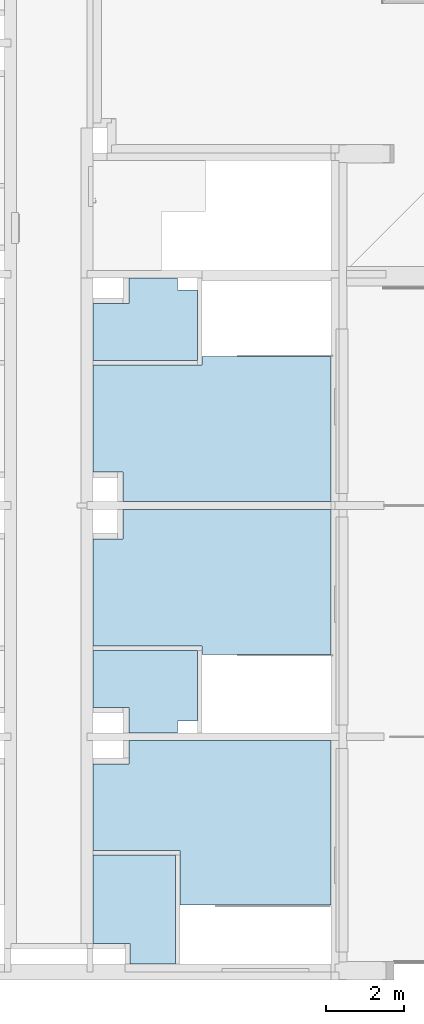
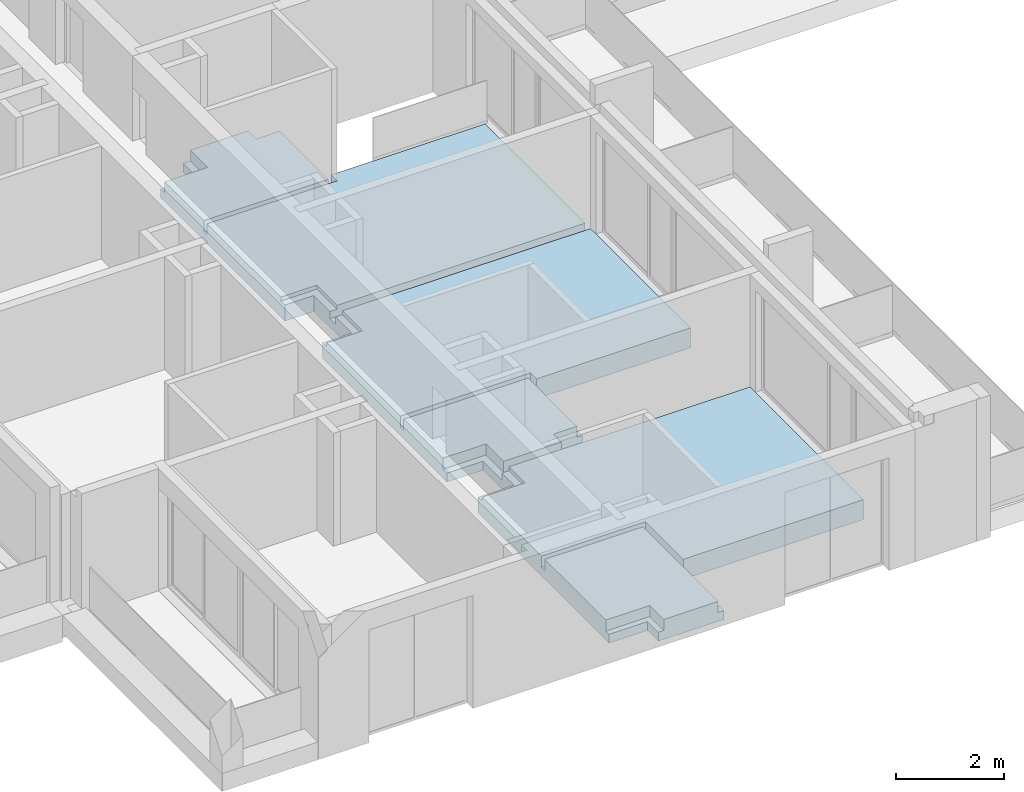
# One storey, part 2 of 30: 1 slab.
"""IFC2X3 building model written with IfcOpenShell, lengths in millimetres."""

from ifc_helpers import new_model, entity, si_unit, converted_unit, derived_unit, money_unit, direction, frame, origin_with_axes, place, context, subcontext, project, spatial, faceted_brep, material, material_list, type_object, element, save


model = new_model("IFC2X3")

# Units and contexts
model_context = context("Model", 3, precision=0.01, world=origin_with_axes(), true_north=direction((0.34421633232, 0.938890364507)))
body_context = subcontext(model_context, "Body", "Model", "MODEL_VIEW")
ifc_project = project(units=[si_unit("LENGTHUNIT", "METRE", prefix="MILLI"), si_unit("AREAUNIT", "SQUARE_METRE"), si_unit("VOLUMEUNIT", "CUBIC_METRE"), converted_unit("PLANEANGLEUNIT", "DEGREE", entity("IfcPlaneAngleMeasure", 0.0174532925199), si_unit("PLANEANGLEUNIT", "RADIAN"), dimensions=[0, 0, 0, 0, 0, 0, 0]), si_unit("SOLIDANGLEUNIT", "STERADIAN"), money_unit("USD"), converted_unit("TIMEUNIT", "Year", entity("IfcTimeMeasure", 31556926.0), si_unit("TIMEUNIT", "SECOND"), dimensions=[0, 0, 1, 0, 0, 0, 0]), si_unit("MASSUNIT", "GRAM", prefix="KILO"), si_unit("THERMODYNAMICTEMPERATUREUNIT", "DEGREE_CELSIUS"), si_unit("LUMINOUSINTENSITYUNIT", "LUMEN"), si_unit("ENERGYUNIT", "JOULE", prefix="MEGA"), derived_unit("THERMALCONDUCTANCEUNIT", [(si_unit("POWERUNIT", "WATT"), 1), (si_unit("LENGTHUNIT", "METRE"), -1), (si_unit("THERMODYNAMICTEMPERATUREUNIT", "KELVIN"), -1)]), derived_unit("SPECIFICHEATCAPACITYUNIT", [(si_unit("ENERGYUNIT", "JOULE"), 1), (si_unit("MASSUNIT", "GRAM", prefix="KILO"), -1), (si_unit("THERMODYNAMICTEMPERATUREUNIT", "KELVIN"), -1)]), derived_unit("MASSDENSITYUNIT", [(si_unit("MASSUNIT", "GRAM", prefix="KILO"), 1), (si_unit("VOLUMEUNIT", "CUBIC_METRE"), -1)])], contexts=[model_context])

# Site, building, storey
site_placement = place(None, origin_with_axes())
site = spatial("IfcSite", under=ifc_project, at=site_placement, Name="USTRONIE MORSKIE", CompositionType="ELEMENT")
building_placement = place(site_placement, origin_with_axes())
building = spatial("IfcBuilding", under=site, at=building_placement, Name="Budynek", CompositionType="ELEMENT")
storey_placement = place(building_placement, frame((0.0, 0.0, 16000.0), z_axis=(0.0, 0.0, 1.0), x_axis=(1.0, 0.0, 0.0)))
storey = spatial("IfcBuildingStorey", under=building, at=storey_placement, Name="ANTRESOLA - KOND. TECHNICZNA", CompositionType="ELEMENT", Elevation=16000.0)

# Slab
ifc_material_1 = material(Name="Płytki podłogowe")
ifc_material_2 = material(Name="Klej elastyczny")
ifc_material_3 = material(Name="Wylewka")
ifc_material_4 = material(Name="Płyty styropianowe EPS PODŁOGA")
ifc_material_5 = material(Name="STROP monolityczny")
ifc_material_list = material_list([ifc_material_1, ifc_material_2, ifc_material_3, ifc_material_4, ifc_material_5])
slab_type = type_object("IfcSlabType", Name="503-PS STROP ANTRESOLA 450", PredefinedType="FLOOR")
slab_placement = place(storey_placement, frame((359697.923683, 714551.204653, 90.0), z_axis=(0.0, 0.0, 1.0), x_axis=(1.0, 0.0, 0.0)))
element("IfcSlab", 1, at=slab_placement, inside=storey, type_object=slab_type, material=ifc_material_list, Name="P5", PredefinedType="FLOOR", context=body_context, shape_type="Brep", body=[
    faceted_brep([(2099.99723615, -2470.00561739, 0.0), (-0.00276384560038, -2470.00561739, 0.0), (-0.00276384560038, -4730.00561695, 0.0), (819.997236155, -4730.00561695, 0.0), (939.997236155, -4730.00561695, 0.0), (939.997236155, -5250.00561695, 0.0), (2099.99723615, -5250.00561695, 0.0), (2099.99723615, -2470.00561739, -10.0), (-0.00276384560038, -2470.00561739, -10.0), (-0.00276384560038, -4730.00561695, -10.0), (819.997236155, -4730.00561695, -10.0), (939.997236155, -4730.00561695, -10.0), (939.997236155, -5250.00561695, -10.0), (2099.99723615, -5250.00561695, -10.0)], [[[0, 1, 2, 3, 4, 5, 6]], [[0, 7, 8, 1]], [[1, 8, 9, 2]], [[10, 3, 2, 9]], [[3, 10, 11, 4]], [[5, 4, 11, 12]], [[13, 6, 5, 12]], [[7, 0, 6, 13]], [[7, 13, 12, 11, 10, 9, 8]]]),
    faceted_brep([(-0.00276384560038, 7300.00976396, 0.0), (619.997236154, 7300.00976396, 0.0), (769.997236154, 7300.00976396, 0.0), (769.997236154, 6550.01183892, 0.0), (6069.99723615, 6550.01672018, 0.0), (6069.99723615, 10250.0386966, 0.0), (2779.99723615, 10250.0386966, 0.0), (2779.99723615, 10029.9758893, 0.0), (2659.99723615, 10029.9758893, 0.0), (-0.00276384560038, 10029.9758893, 0.0), (619.997236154, 7300.00976396, -10.0), (-0.00276384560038, 7300.00976396, -10.0), (769.997236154, 7300.00976396, -10.0), (769.997236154, 6550.01183892, -10.0), (6069.99723615, 6550.01672018, -10.0), (6069.99723615, 10250.0386966, -10.0), (2779.99723615, 10250.0386966, -10.0), (2779.99723615, 10029.9758893, -10.0), (2659.99723615, 10029.9758893, -10.0), (-0.00276384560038, 10029.9758893, -10.0)], [[[0, 1, 2, 3, 4, 5, 6, 7, 8, 9]], [[10, 1, 0, 11]], [[1, 10, 12, 2]], [[3, 2, 12, 13]], [[3, 13, 14, 4]], [[4, 14, 15, 5]], [[16, 6, 5, 15]], [[7, 6, 16, 17]], [[18, 8, 7, 17]], [[9, 8, 18, 19]], [[11, 0, 9, 19]], [[10, 11, 19, 18, 17, 16, 15, 14, 13, 12]]]),
    faceted_brep([(2659.99723615, 2750.01504804, 0.0), (-0.00276384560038, 2750.01504804, 0.0), (-0.00276384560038, 1299.9887661, 0.0), (769.998137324, 1299.9887661, 0.0), (919.998137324, 1299.9887661, 0.0), (919.998137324, 649.994383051, 0.0), (2159.99723615, 649.994383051, 0.0), (2159.99723615, 949.994364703, 0.0), (2659.99723615, 949.994364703, 0.0), (2659.99723615, 2750.01504804, -10.0), (-0.00276384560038, 2750.01504804, -10.0), (-0.00276384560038, 1299.9887661, -10.0), (769.998137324, 1299.9887661, -10.0), (919.998137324, 1299.9887661, -10.0), (919.998137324, 649.994383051, -10.0), (2159.99723615, 649.994383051, -10.0), (2159.99723615, 949.994364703, -10.0), (2659.99723615, 949.994364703, -10.0)], [[[0, 1, 2, 3, 4, 5, 6, 7, 8]], [[0, 9, 10, 1]], [[1, 10, 11, 2]], [[12, 3, 2, 11]], [[3, 12, 13, 4]], [[5, 4, 13, 14]], [[5, 14, 15, 6]], [[6, 15, 16, 7]], [[17, 8, 7, 16]], [[9, 0, 8, 17]], [[9, 17, 16, 15, 14, 13, 12, 11, 10]]]),
    faceted_brep([(-0.00276384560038, 10149.9758893, 0.0), (2659.99723615, 10149.9758893, 0.0), (2659.99723615, 11949.9944279, 0.0), (2159.99723615, 11949.9944279, 0.0), (2159.99723615, 12249.9943831, 0.0), (919.998137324, 12249.9943831, 0.0), (919.998137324, 11599.9870085, 0.0), (769.998137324, 11599.9870085, 0.0), (-0.00276384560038, 11599.9870085, 0.0), (2659.99723615, 10149.9758893, -10.0), (-0.00276384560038, 10149.9758893, -10.0), (2659.99723615, 11949.9944279, -10.0), (2159.99723615, 11949.9944279, -10.0), (2159.99723615, 12249.9943831, -10.0), (919.998137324, 12249.9943831, -10.0), (919.998137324, 11599.9870085, -10.0), (769.998137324, 11599.9870085, -10.0), (-0.00276384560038, 11599.9870085, -10.0)], [[[0, 1, 2, 3, 4, 5, 6, 7, 8]], [[9, 1, 0, 10]], [[1, 9, 11, 2]], [[2, 11, 12, 3]], [[13, 4, 3, 12]], [[14, 5, 4, 13]], [[6, 5, 14, 15]], [[16, 7, 6, 15]], [[8, 7, 16, 17]], [[10, 0, 8, 17]], [[9, 10, 17, 16, 15, 14, 13, 12, 11]]]),
    faceted_brep([(619.997236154, 5600.00976396, -10.0), (619.997236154, 5600.00976396, 0.0), (769.997236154, 5600.00976396, 0.0), (769.997236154, 5600.00976396, -10.0), (-0.00276384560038, 5600.00976396, 0.0), (-0.00276384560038, 5600.00976396, -10.0), (-0.00276384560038, 2870.01504804, 0.0), (2779.99723615, 2870.01504804, 0.0), (2779.99723615, 2750.01504804, 0.0), (2779.99723615, 2649.99427753, 0.0), (6069.99723615, 2649.99427753, 0.0), (6069.99723615, 6350.01672018, 0.0), (769.997236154, 6350.01183892, 0.0), (769.997236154, 6350.01183892, -10.0), (6069.99723615, 6350.01672018, -10.0), (6069.99723615, 2649.99427753, -10.0), (2779.99723615, 2649.99427753, -10.0), (2779.99723615, 2750.01504804, -10.0), (2779.99723615, 2870.01504804, -10.0), (-0.00276384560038, 2870.01504804, -10.0)], [[[0, 1, 2, 3]], [[4, 1, 0, 5]], [[1, 4, 6, 7, 8, 9, 10, 11, 12, 2]], [[2, 12, 13, 3]], [[5, 0, 3, 13, 14, 15, 16, 17, 18, 19]], [[4, 5, 19, 6]], [[7, 6, 19, 18]], [[17, 8, 7, 18]], [[9, 8, 17, 16]], [[9, 16, 15, 10]], [[14, 11, 10, 15]], [[13, 12, 11, 14]]]),
    faceted_brep([(919.998137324, 449.994383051, -10.0), (919.998137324, 449.994383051, 0.0), (2159.99723615, 449.994383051, 0.0), (2159.99723615, 449.994383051, -10.0), (919.998137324, -0.00759474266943, 0.0), (919.998137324, -0.00759474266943, -10.0), (919.998137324, -150.007594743, 0.0), (-0.00276384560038, -150.007594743, 0.0), (-0.00276384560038, -2350.00561739, 0.0), (2219.99723615, -2350.00561739, 0.0), (2219.99723615, -2470.00561739, 0.0), (2219.99723615, -3750.00558845, 0.0), (6069.99720772, -3750.00558845, 0.0), (6069.99720772, 449.994569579, 0.0), (6069.99720772, 449.994569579, -10.0), (6069.99720772, -3750.00558845, -10.0), (2219.99723615, -3750.00558845, -10.0), (2219.99723615, -2470.00561739, -10.0), (2219.99723615, -2350.00561739, -10.0), (-0.00276384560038, -2350.00561739, -10.0), (-0.00276384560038, -150.007594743, -10.0), (919.998137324, -150.007594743, -10.0)], [[[0, 1, 2, 3]], [[4, 1, 0, 5]], [[1, 4, 6, 7, 8, 9, 10, 11, 12, 13, 2]], [[3, 2, 13, 14]], [[5, 0, 3, 14, 15, 16, 17, 18, 19, 20, 21]], [[4, 5, 21, 6]], [[7, 6, 21, 20]], [[7, 20, 19, 8]], [[9, 8, 19, 18]], [[17, 10, 9, 18]], [[11, 10, 17, 16]], [[11, 16, 15, 12]], [[15, 14, 13, 12]]]),
    faceted_brep([(2099.99723615, -2470.00561739, -10.0), (-0.00276384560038, -2470.00561739, -10.0), (-0.00276384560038, -4730.00561695, -10.0), (819.997236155, -4730.00561695, -10.0), (939.997236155, -4730.00561695, -10.0), (939.997236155, -5250.00561695, -10.0), (2099.99723615, -5250.00561695, -10.0), (2099.99723615, -2470.00561739, -15.0), (-0.00276384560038, -2470.00561739, -15.0), (-0.00276384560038, -4730.00561695, -15.0), (819.997236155, -4730.00561695, -15.0), (939.997236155, -4730.00561695, -15.0), (939.997236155, -5250.00561695, -15.0), (2099.99723615, -5250.00561695, -15.0)], [[[0, 1, 2, 3, 4, 5, 6]], [[0, 7, 8, 1]], [[1, 8, 9, 2]], [[10, 3, 2, 9]], [[3, 10, 11, 4]], [[5, 4, 11, 12]], [[13, 6, 5, 12]], [[7, 0, 6, 13]], [[7, 13, 12, 11, 10, 9, 8]]]),
    faceted_brep([(-0.00276384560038, 7300.00976396, -10.0), (619.997236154, 7300.00976396, -10.0), (769.997236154, 7300.00976396, -10.0), (769.997236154, 6550.01183892, -10.0), (6069.99723615, 6550.01672018, -10.0), (6069.99723615, 10250.0386966, -10.0), (2779.99723615, 10250.0386966, -10.0), (2779.99723615, 10029.9758893, -10.0), (2659.99723615, 10029.9758893, -10.0), (-0.00276384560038, 10029.9758893, -10.0), (619.997236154, 7300.00976396, -15.0), (-0.00276384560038, 7300.00976396, -15.0), (769.997236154, 7300.00976396, -15.0), (769.997236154, 6550.01183892, -15.0), (6069.99723615, 6550.01672018, -15.0), (6069.99723615, 10250.0386966, -15.0), (2779.99723615, 10250.0386966, -15.0), (2779.99723615, 10029.9758893, -15.0), (2659.99723615, 10029.9758893, -15.0), (-0.00276384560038, 10029.9758893, -15.0)], [[[0, 1, 2, 3, 4, 5, 6, 7, 8, 9]], [[10, 1, 0, 11]], [[1, 10, 12, 2]], [[3, 2, 12, 13]], [[3, 13, 14, 4]], [[4, 14, 15, 5]], [[16, 6, 5, 15]], [[7, 6, 16, 17]], [[18, 8, 7, 17]], [[9, 8, 18, 19]], [[11, 0, 9, 19]], [[10, 11, 19, 18, 17, 16, 15, 14, 13, 12]]]),
    faceted_brep([(2659.99723615, 2750.01504804, -10.0), (-0.00276384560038, 2750.01504804, -10.0), (-0.00276384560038, 1299.9887661, -10.0), (769.998137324, 1299.9887661, -10.0), (919.998137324, 1299.9887661, -10.0), (919.998137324, 649.994383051, -10.0), (2159.99723615, 649.994383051, -10.0), (2159.99723615, 949.994364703, -10.0), (2659.99723615, 949.994364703, -10.0), (2659.99723615, 2750.01504804, -15.0), (-0.00276384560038, 2750.01504804, -15.0), (-0.00276384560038, 1299.9887661, -15.0), (769.998137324, 1299.9887661, -15.0), (919.998137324, 1299.9887661, -15.0), (919.998137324, 649.994383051, -15.0), (2159.99723615, 649.994383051, -15.0), (2159.99723615, 949.994364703, -15.0), (2659.99723615, 949.994364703, -15.0)], [[[0, 1, 2, 3, 4, 5, 6, 7, 8]], [[0, 9, 10, 1]], [[1, 10, 11, 2]], [[12, 3, 2, 11]], [[3, 12, 13, 4]], [[5, 4, 13, 14]], [[5, 14, 15, 6]], [[6, 15, 16, 7]], [[17, 8, 7, 16]], [[9, 0, 8, 17]], [[9, 17, 16, 15, 14, 13, 12, 11, 10]]]),
    faceted_brep([(-0.00276384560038, 10149.9758893, -10.0), (2659.99723615, 10149.9758893, -10.0), (2659.99723615, 11949.9944279, -10.0), (2159.99723615, 11949.9944279, -10.0), (2159.99723615, 12249.9943831, -10.0), (919.998137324, 12249.9943831, -10.0), (919.998137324, 11599.9870085, -10.0), (769.998137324, 11599.9870085, -10.0), (-0.00276384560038, 11599.9870085, -10.0), (2659.99723615, 10149.9758893, -15.0), (-0.00276384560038, 10149.9758893, -15.0), (2659.99723615, 11949.9944279, -15.0), (2159.99723615, 11949.9944279, -15.0), (2159.99723615, 12249.9943831, -15.0), (919.998137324, 12249.9943831, -15.0), (919.998137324, 11599.9870085, -15.0), (769.998137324, 11599.9870085, -15.0), (-0.00276384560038, 11599.9870085, -15.0)], [[[0, 1, 2, 3, 4, 5, 6, 7, 8]], [[9, 1, 0, 10]], [[1, 9, 11, 2]], [[2, 11, 12, 3]], [[13, 4, 3, 12]], [[14, 5, 4, 13]], [[6, 5, 14, 15]], [[16, 7, 6, 15]], [[8, 7, 16, 17]], [[10, 0, 8, 17]], [[9, 10, 17, 16, 15, 14, 13, 12, 11]]]),
    faceted_brep([(619.997236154, 5600.00976396, -15.0), (619.997236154, 5600.00976396, -10.0), (769.997236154, 5600.00976396, -10.0), (769.997236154, 5600.00976396, -15.0), (-0.00276384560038, 5600.00976396, -10.0), (-0.00276384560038, 5600.00976396, -15.0), (-0.00276384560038, 2870.01504804, -10.0), (2779.99723615, 2870.01504804, -10.0), (2779.99723615, 2750.01504804, -10.0), (2779.99723615, 2649.99427753, -10.0), (6069.99723615, 2649.99427753, -10.0), (6069.99723615, 6350.01672018, -10.0), (769.997236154, 6350.01183892, -10.0), (769.997236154, 6350.01183892, -15.0), (6069.99723615, 6350.01672018, -15.0), (6069.99723615, 2649.99427753, -15.0), (2779.99723615, 2649.99427753, -15.0), (2779.99723615, 2750.01504804, -15.0), (2779.99723615, 2870.01504804, -15.0), (-0.00276384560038, 2870.01504804, -15.0)], [[[0, 1, 2, 3]], [[4, 1, 0, 5]], [[1, 4, 6, 7, 8, 9, 10, 11, 12, 2]], [[2, 12, 13, 3]], [[5, 0, 3, 13, 14, 15, 16, 17, 18, 19]], [[4, 5, 19, 6]], [[7, 6, 19, 18]], [[17, 8, 7, 18]], [[9, 8, 17, 16]], [[9, 16, 15, 10]], [[14, 11, 10, 15]], [[13, 12, 11, 14]]]),
    faceted_brep([(919.998137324, 449.994383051, -15.0), (919.998137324, 449.994383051, -10.0), (2159.99723615, 449.994383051, -10.0), (2159.99723615, 449.994383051, -15.0), (919.998137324, -0.00759474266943, -10.0), (919.998137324, -0.00759474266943, -15.0), (919.998137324, -150.007594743, -10.0), (-0.00276384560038, -150.007594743, -10.0), (-0.00276384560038, -2350.00561739, -10.0), (2219.99723615, -2350.00561739, -10.0), (2219.99723615, -2470.00561739, -10.0), (2219.99723615, -3750.00558845, -10.0), (6069.99720772, -3750.00558845, -10.0), (6069.99720772, 449.994569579, -10.0), (6069.99720772, 449.994569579, -15.0), (6069.99720772, -3750.00558845, -15.0), (2219.99723615, -3750.00558845, -15.0), (2219.99723615, -2470.00561739, -15.0), (2219.99723615, -2350.00561739, -15.0), (-0.00276384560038, -2350.00561739, -15.0), (-0.00276384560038, -150.007594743, -15.0), (919.998137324, -150.007594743, -15.0)], [[[0, 1, 2, 3]], [[4, 1, 0, 5]], [[1, 4, 6, 7, 8, 9, 10, 11, 12, 13, 2]], [[3, 2, 13, 14]], [[5, 0, 3, 14, 15, 16, 17, 18, 19, 20, 21]], [[4, 5, 21, 6]], [[7, 6, 21, 20]], [[7, 20, 19, 8]], [[9, 8, 19, 18]], [[17, 10, 9, 18]], [[11, 10, 17, 16]], [[11, 16, 15, 12]], [[15, 14, 13, 12]]]),
    faceted_brep([(2099.99723615, -2470.00561739, -15.0), (-0.00276384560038, -2470.00561739, -15.0), (-0.00276384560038, -4730.00561695, -15.0), (819.997236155, -4730.00561695, -15.0), (939.997236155, -4730.00561695, -15.0), (939.997236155, -5250.00561695, -15.0), (2099.99723615, -5250.00561695, -15.0), (2099.99723615, -2470.00561739, -100.0), (-0.00276384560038, -2470.00561739, -100.0), (-0.00276384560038, -4730.00561695, -100.0), (819.997236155, -4730.00561695, -100.0), (939.997236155, -4730.00561695, -100.0), (939.997236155, -5250.00561695, -100.0), (2099.99723615, -5250.00561695, -100.0)], [[[0, 1, 2, 3, 4, 5, 6]], [[0, 7, 8, 1]], [[1, 8, 9, 2]], [[10, 3, 2, 9]], [[3, 10, 11, 4]], [[5, 4, 11, 12]], [[13, 6, 5, 12]], [[7, 0, 6, 13]], [[7, 13, 12, 11, 10, 9, 8]]]),
    faceted_brep([(-0.00276384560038, 7300.00976396, -15.0), (619.997236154, 7300.00976396, -15.0), (769.997236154, 7300.00976396, -15.0), (769.997236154, 6550.01183892, -15.0), (6069.99723615, 6550.01672018, -15.0), (6069.99723615, 10250.0386966, -15.0), (2779.99723615, 10250.0386966, -15.0), (2779.99723615, 10029.9758893, -15.0), (2659.99723615, 10029.9758893, -15.0), (-0.00276384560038, 10029.9758893, -15.0), (619.997236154, 7300.00976396, -90.0), (-0.00276384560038, 7300.00976396, -90.0), (769.997236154, 7300.00976396, -90.0), (769.997236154, 6550.01183892, -90.000002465), (619.997236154, 6550.01170077, -90.0000021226), (619.997181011, 6550.01170077, -100.0), (6069.99723615, 6550.01672018, -100.0), (6069.99723615, 10250.0386966, -100.0), (2779.99723615, 10250.0386966, -100.0), (2779.99723615, 10029.9758893, -100.0), (2659.99723615, 10029.9758893, -100.0), (-0.00276384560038, 10029.9758893, -100.0), (-9.12471591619e-05, 7150.00969998, -100.0), (-0.00276384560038, 7150.00976396, -90.0), (619.997236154, 7150.00976396, -90.0), (619.997181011, 7150.00969998, -100.0)], [[[0, 1, 2, 3, 4, 5, 6, 7, 8, 9]], [[10, 1, 0, 11]], [[1, 10, 12, 2]], [[3, 2, 12, 13]], [[13, 14, 15, 16, 4, 3]], [[4, 16, 17, 5]], [[18, 6, 5, 17]], [[7, 6, 18, 19]], [[20, 8, 7, 19]], [[9, 8, 20, 21]], [[11, 0, 9, 21, 22, 23]], [[10, 11, 23, 24, 14, 13, 12]], [[14, 24, 25, 15]], [[21, 20, 19, 18, 17, 16, 15, 25, 22]], [[24, 23, 22, 25]]]),
    faceted_brep([(2659.99723615, 2750.01504804, -15.0), (-0.00276384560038, 2750.01504804, -15.0), (-0.00276384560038, 1299.9887661, -15.0), (769.998137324, 1299.9887661, -15.0), (919.998137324, 1299.9887661, -15.0), (919.998137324, 649.994383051, -15.0), (2159.99723615, 649.994383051, -15.0), (2159.99723615, 949.994364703, -15.0), (2659.99723615, 949.994364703, -15.0), (2659.99723615, 2750.01504804, -100.0), (-0.00276384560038, 2750.01504804, -100.0), (-0.00276384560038, 1299.9887661, -100.0), (769.998137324, 1299.9887661, -100.0), (919.998137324, 1299.9887661, -100.0), (919.998137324, 649.994383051, -100.0), (2159.99723615, 649.994383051, -100.0), (2159.99723615, 949.994364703, -100.0), (2659.99723615, 949.994364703, -100.0)], [[[0, 1, 2, 3, 4, 5, 6, 7, 8]], [[0, 9, 10, 1]], [[1, 10, 11, 2]], [[12, 3, 2, 11]], [[3, 12, 13, 4]], [[5, 4, 13, 14]], [[5, 14, 15, 6]], [[6, 15, 16, 7]], [[17, 8, 7, 16]], [[9, 0, 8, 17]], [[9, 17, 16, 15, 14, 13, 12, 11, 10]]]),
    faceted_brep([(-0.00276384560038, 10149.9758893, -15.0), (2659.99723615, 10149.9758893, -15.0), (2659.99723615, 11949.9944279, -15.0), (2159.99723615, 11949.9944279, -15.0), (2159.99723615, 12249.9943831, -15.0), (919.998137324, 12249.9943831, -15.0), (919.998137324, 11599.9870085, -15.0), (769.998137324, 11599.9870085, -15.0), (-0.00276384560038, 11599.9870085, -15.0), (2659.99723615, 10149.9758893, -100.0), (-0.00276384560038, 10149.9758893, -100.0), (2659.99723615, 11949.9944279, -100.0), (2159.99723615, 11949.9944279, -100.0), (2159.99723615, 12249.9943831, -100.0), (919.998137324, 12249.9943831, -100.0), (919.998137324, 11599.9870085, -100.0), (769.998137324, 11599.9870085, -100.0), (-0.00276384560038, 11599.9870085, -100.0)], [[[0, 1, 2, 3, 4, 5, 6, 7, 8]], [[9, 1, 0, 10]], [[1, 9, 11, 2]], [[2, 11, 12, 3]], [[13, 4, 3, 12]], [[14, 5, 4, 13]], [[6, 5, 14, 15]], [[16, 7, 6, 15]], [[8, 7, 16, 17]], [[10, 0, 8, 17]], [[9, 10, 17, 16, 15, 14, 13, 12, 11]]]),
    faceted_brep([(-0.00276384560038, 5750.00976396, -90.0), (619.997236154, 5750.00976396, -90.0), (619.997181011, 5750.00981658, -100.0), (-0.000117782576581, 5750.00981658, -100.0), (-0.00276384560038, 5600.00976396, -90.0), (619.997236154, 5600.00976396, -90.0), (769.997236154, 5600.00976396, -90.0), (769.997236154, 6350.01183892, -90.0), (619.997236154, 6350.01170077, -90.0), (619.997181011, 6350.01170077, -100.0), (2779.99723615, 2649.99427753, -100.0), (2779.99723615, 2750.01504804, -100.0), (2779.99723615, 2870.01504804, -100.0), (-0.00276384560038, 2870.01504804, -100.0), (6069.99723615, 6350.01672018, -100.0), (6069.99723615, 2649.99427753, -100.0), (-0.00276384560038, 2870.01504804, -15.0), (-0.00276384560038, 5600.00976396, -15.0), (619.997236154, 5600.00976396, -15.0), (769.997236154, 5600.00976396, -15.0), (769.997236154, 6350.01183892, -15.0), (6069.99723615, 6350.01672018, -15.0), (2779.99723615, 2649.99427753, -15.0), (2779.99723615, 2750.01504804, -15.0), (2779.99723615, 2870.01504804, -15.0), (6069.99723615, 2649.99427753, -15.0)], [[[0, 1, 2, 3]], [[1, 0, 4, 5, 6, 7, 8]], [[1, 8, 9, 2]], [[10, 11, 12, 13, 3, 2, 9, 14, 15]], [[4, 0, 3, 13, 16, 17]], [[17, 18, 5, 4]], [[5, 18, 19, 6]], [[19, 20, 7, 6]], [[8, 7, 20, 21, 14, 9]], [[22, 23, 11, 10]], [[11, 23, 24, 12]], [[24, 16, 13, 12]], [[14, 21, 25, 15]], [[22, 10, 15, 25]], [[18, 17, 16, 24, 23, 22, 25, 21, 20, 19]]]),
    faceted_brep([(769.998137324, 449.994383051, -90.0), (919.998137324, 449.994383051, -90.0), (919.998137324, 449.994383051, -15.0), (2159.99723615, 449.994383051, -15.0), (2159.99723615, 449.994383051, -100.0), (769.998137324, 449.994383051, -100.0), (919.998137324, -0.00759474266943, -90.0), (769.998137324, -0.00759474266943, -90.0), (-0.00276384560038, -0.00759474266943, -90.0), (-0.00276384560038, -150.007594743, -90.0), (919.998137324, -150.007594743, -90.0), (919.998137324, -0.00759474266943, -15.0), (919.998137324, -150.007594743, -15.0), (-0.00276384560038, -150.007594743, -15.0), (-0.00276384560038, -2350.00561739, -15.0), (2219.99723615, -2350.00561739, -15.0), (2219.99723615, -2470.00561739, -15.0), (2219.99723615, -3750.00558845, -15.0), (6069.99720772, -3750.00558845, -15.0), (6069.99720772, 449.994569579, -15.0), (6069.99720772, 449.994569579, -100.0), (2219.99723615, -3750.00558845, -100.0), (2219.99723615, -2470.00561739, -100.0), (2219.99723615, -2350.00561739, -100.0), (-0.00276384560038, -2350.00561739, -100.0), (0.0, 0.0, -100.0), (769.998137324, 0.0, -100.0), (6069.99720772, -3750.00558845, -100.0)], [[[0, 1, 2, 3, 4, 5]], [[6, 1, 0, 7, 8, 9, 10]], [[11, 2, 1, 6]], [[2, 11, 12, 13, 14, 15, 16, 17, 18, 19, 3]], [[4, 3, 19, 20]], [[21, 22, 23, 24, 25, 26, 5, 4, 20, 27]], [[7, 0, 5, 26]], [[8, 7, 26, 25]], [[9, 8, 25, 24, 14, 13]], [[13, 12, 10, 9]], [[11, 6, 10, 12]], [[15, 14, 24, 23]], [[22, 16, 15, 23]], [[17, 16, 22, 21]], [[17, 21, 27, 18]], [[27, 20, 19, 18]]]),
    faceted_brep([(2099.99723615, -2470.00561739, -100.0), (-0.00276384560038, -2470.00561739, -100.0), (-0.00276384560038, -4730.00561695, -100.0), (819.997236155, -4730.00561695, -100.0), (939.997236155, -4730.00561695, -100.0), (939.997236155, -5250.00561695, -100.0), (2099.99723615, -5250.00561695, -100.0), (2099.99723615, -2470.00561739, -249.999998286), (-0.00276384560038, -2470.00561739, -249.999998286), (-0.00276384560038, -4730.00561695, -250.0), (819.997236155, -4730.00561695, -250.0), (939.997236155, -4730.00561695, -250.0), (939.997236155, -5250.00561695, -250.0), (2099.99723615, -5250.00561695, -249.999998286)], [[[0, 1, 2, 3, 4, 5, 6]], [[0, 7, 8, 1]], [[1, 8, 9, 2]], [[10, 3, 2, 9]], [[3, 10, 11, 4]], [[5, 4, 11, 12]], [[13, 6, 5, 12]], [[7, 0, 6, 13]], [[7, 13, 12, 11, 10, 9, 8]]]),
    faceted_brep([(2659.99723615, 10029.9758893, -249.999998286), (2659.99723615, 10029.9758893, -100.0), (2779.99723615, 10029.9758893, -100.0), (2779.99723615, 10029.9758893, -249.999998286), (-0.00276384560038, 10029.9758893, -100.0), (-0.00276384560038, 10029.9758893, -249.999998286), (-9.12471591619e-05, 7150.00969998, -100.0), (619.997181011, 7150.00969998, -100.0), (619.997181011, 6550.01170077, -100.0), (6069.99723615, 6550.01672018, -100.0), (6069.99723615, 10250.0386966, -100.0), (2779.99723615, 10250.0386966, -100.0), (2779.99723615, 10250.0386966, -249.999998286), (6069.99723615, 10250.0386966, -250.0), (6069.99723615, 6550.01672018, -250.0), (619.997181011, 6550.01170077, -250.0), (619.997181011, 7150.00969998, -250.0), (-9.12471591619e-05, 7150.00969998, -250.0)], [[[0, 1, 2, 3]], [[4, 1, 0, 5]], [[1, 4, 6, 7, 8, 9, 10, 11, 2]], [[2, 11, 12, 3]], [[5, 0, 3, 12, 13, 14, 15, 16, 17]], [[4, 5, 17, 6]], [[17, 16, 7, 6]], [[15, 8, 7, 16]], [[14, 9, 8, 15]], [[9, 14, 13, 10]], [[12, 11, 10, 13]]]),
    faceted_brep([(2659.99723615, 2750.01504804, -100.0), (-0.00276384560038, 2750.01504804, -100.0), (-0.00276384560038, 1299.9887661, -100.0), (769.998137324, 1299.9887661, -100.0), (919.998137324, 1299.9887661, -100.0), (919.998137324, 649.994383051, -100.0), (2159.99723615, 649.994383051, -100.0), (2159.99723615, 949.994364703, -100.0), (2659.99723615, 949.994364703, -100.0), (2659.99723615, 2750.01504804, -249.999998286), (-0.00276384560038, 2750.01504804, -249.999998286), (-0.00276384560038, 1299.9887661, -250.0), (769.998137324, 1299.9887661, -250.0), (919.998137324, 1299.9887661, -250.0), (919.998137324, 649.994383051, -250.0), (2159.99723615, 649.994383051, -250.0), (2159.99723615, 949.994364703, -250.0), (2659.99723615, 949.994364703, -249.999998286)], [[[0, 1, 2, 3, 4, 5, 6, 7, 8]], [[0, 9, 10, 1]], [[1, 10, 11, 2]], [[12, 3, 2, 11]], [[3, 12, 13, 4]], [[5, 4, 13, 14]], [[5, 14, 15, 6]], [[6, 15, 16, 7]], [[17, 8, 7, 16]], [[9, 0, 8, 17]], [[9, 17, 16, 15, 14, 13, 12, 11, 10]]]),
    faceted_brep([(-0.00276384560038, 10149.9758893, -100.0), (2659.99723615, 10149.9758893, -100.0), (2659.99723615, 11949.9944279, -100.0), (2159.99723615, 11949.9944279, -100.0), (2159.99723615, 12249.9943831, -100.0), (919.998137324, 12249.9943831, -100.0), (919.998137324, 11599.9870085, -100.0), (769.998137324, 11599.9870085, -100.0), (-0.00276384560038, 11599.9870085, -100.0), (2659.99723615, 10149.9758893, -249.999998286), (-0.00276384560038, 10149.9758893, -249.999998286), (2659.99723615, 11949.9944279, -249.999998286), (2159.99723615, 11949.9944279, -250.0), (2159.99723615, 12249.9943831, -250.0), (919.998137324, 12249.9943831, -250.0), (919.998137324, 11599.9870085, -250.0), (769.998137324, 11599.9870085, -250.0), (-0.00276384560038, 11599.9870085, -250.0)], [[[0, 1, 2, 3, 4, 5, 6, 7, 8]], [[9, 1, 0, 10]], [[1, 9, 11, 2]], [[2, 11, 12, 3]], [[13, 4, 3, 12]], [[14, 5, 4, 13]], [[6, 5, 14, 15]], [[16, 7, 6, 15]], [[8, 7, 16, 17]], [[10, 0, 8, 17]], [[9, 10, 17, 16, 15, 14, 13, 12, 11]]]),
    faceted_brep([(2779.99723615, 2750.01504804, -249.999998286), (2779.99723615, 2750.01504804, -100.0), (2779.99723615, 2870.01504804, -100.0), (2779.99723615, 2870.01504804, -249.999998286), (2779.99723615, 2649.99427753, -100.0), (2779.99723615, 2649.99427753, -249.999998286), (6069.99723615, 2649.99427753, -100.0), (6069.99723615, 6350.01672018, -100.0), (619.997181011, 6350.01170077, -100.0), (619.997181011, 5750.00981658, -100.0), (-0.000117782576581, 5750.00981658, -100.0), (-0.00276384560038, 2870.01504804, -100.0), (-0.00276384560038, 2870.01504804, -249.999998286), (-0.000117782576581, 5750.00981658, -250.0), (619.997181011, 5750.00981658, -250.0), (619.997181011, 6350.01170077, -250.0), (6069.99723615, 6350.01672018, -250.0), (6069.99723615, 2649.99427753, -250.0)], [[[0, 1, 2, 3]], [[4, 1, 0, 5]], [[1, 4, 6, 7, 8, 9, 10, 11, 2]], [[2, 11, 12, 3]], [[5, 0, 3, 12, 13, 14, 15, 16, 17]], [[4, 5, 17, 6]], [[16, 7, 6, 17]], [[8, 7, 16, 15]], [[8, 15, 14, 9]], [[14, 13, 10, 9]], [[12, 11, 10, 13]]]),
    faceted_brep([(2219.99723615, -2470.00561739, -249.999998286), (2219.99723615, -2470.00561739, -100.0), (2219.99723615, -2350.00561739, -100.0), (2219.99723615, -2350.00561739, -249.999998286), (2219.99723615, -3750.00558845, -100.0), (2219.99723615, -3750.00558845, -249.999998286), (6069.99720772, -3750.00558845, -100.0), (6069.99720772, 449.994569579, -100.0), (2159.99723615, 449.994383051, -100.0), (769.998137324, 449.994383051, -100.0), (769.998137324, 0.0, -100.0), (0.0, 0.0, -100.0), (-0.00276384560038, -2350.00561739, -100.0), (-0.00276384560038, -2350.00561739, -249.999998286), (0.0, 0.0, -250.0), (769.998137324, 0.0, -250.0), (769.998137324, 449.994383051, -250.0), (2159.99723615, 449.994383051, -250.0), (6069.99720772, 449.994569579, -250.0), (6069.99720772, -3750.00558845, -250.0)], [[[0, 1, 2, 3]], [[4, 1, 0, 5]], [[1, 4, 6, 7, 8, 9, 10, 11, 12, 2]], [[2, 12, 13, 3]], [[5, 0, 3, 13, 14, 15, 16, 17, 18, 19]], [[4, 5, 19, 6]], [[19, 18, 7, 6]], [[17, 8, 7, 18]], [[9, 8, 17, 16]], [[9, 16, 15, 10]], [[15, 14, 11, 10]], [[13, 12, 11, 14]]]),
    faceted_brep([(0.0, 0.0, -450.0), (-0.000254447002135, -4850.00561695, -450.0), (-0.000254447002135, -4850.00561695, -250.0), (0.0, 0.0, -250.0), (769.998137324, 0.0, -450.0), (769.998137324, 1149.98879815, -450.0), (-0.000117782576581, 1149.98879815, -450.0), (-0.000117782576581, 5750.00981658, -450.0), (619.997181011, 5750.00981658, -450.0), (619.997181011, 7150.00969998, -450.0), (-9.12471591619e-05, 7150.00969998, -450.0), (-0.000345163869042, 11749.9878065, -450.0), (769.998137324, 11749.9878065, -450.0), (769.998137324, 12250.0386389, -450.0), (2159.99723615, 12250.0386389, -450.0), (2159.99723615, 11949.9944279, -450.0), (2779.99713895, 11949.9944279, -450.0), (2779.99713895, 10250.0386966, -450.0), (6069.99723615, 10250.0386966, -450.0), (6069.99723615, 2649.99427753, -450.0), (2779.99713895, 2649.99427753, -450.0), (2779.99713895, 949.994364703, -450.0), (2159.99723615, 949.994364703, -450.0), (2159.99723615, 449.994569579, -450.0), (6069.99720772, 449.994569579, -450.0), (6069.99720772, -3750.00558845, -450.0), (2219.99723615, -3750.00558845, -450.0), (2219.99723615, -5250.00561695, -450.0), (819.997236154, -5250.00561695, -450.0), (819.997236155, -4850.00561695, -450.0), (819.997236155, -4850.00561695, -250.0), (819.997236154, -5250.00561695, -250.0), (2219.99723615, -5250.00561695, -250.0), (2219.99723615, -3750.00558845, -250.0), (6069.99720772, -3750.00558845, -250.0), (6069.99720772, 449.994569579, -250.0), (2159.99723615, 449.994569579, -250.0), (2159.99723615, 949.994364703, -250.0), (2779.99713895, 949.994364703, -250.0), (2779.99713895, 2649.99427753, -250.0), (6069.99723615, 2649.99427753, -250.0), (6069.99723615, 10250.0386966, -250.0), (2779.99713895, 10250.0386966, -250.0), (2779.99713895, 11949.9944279, -250.0), (2159.99723615, 11949.9944279, -250.0), (2159.99723615, 12250.0386389, -250.0), (769.998137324, 12250.0386389, -250.0), (769.998137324, 11749.9878065, -250.0), (-0.000345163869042, 11749.9878065, -250.0), (-9.12471591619e-05, 7150.00969998, -250.0), (619.997181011, 7150.00969998, -250.0), (619.997181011, 5750.00981658, -250.0), (-0.000117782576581, 5750.00981658, -250.0), (-0.000117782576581, 1149.98879815, -250.0), (769.998137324, 1149.98879815, -250.0), (769.998137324, 0.0, -250.0)], [[[0, 1, 2, 3]], [[0, 4, 5, 6, 7, 8, 9, 10, 11, 12, 13, 14, 15, 16, 17, 18, 19, 20, 21, 22, 23, 24, 25, 26, 27, 28, 29, 1]], [[1, 29, 30, 2]], [[3, 2, 30, 31, 32, 33, 34, 35, 36, 37, 38, 39, 40, 41, 42, 43, 44, 45, 46, 47, 48, 49, 50, 51, 52, 53, 54, 55]], [[4, 0, 3, 55]], [[5, 4, 55, 54]], [[6, 5, 54, 53]], [[7, 6, 53, 52]], [[8, 7, 52, 51]], [[9, 8, 51, 50]], [[10, 9, 50, 49]], [[11, 10, 49, 48]], [[12, 11, 48, 47]], [[13, 12, 47, 46]], [[14, 13, 46, 45]], [[15, 14, 45, 44]], [[16, 15, 44, 43]], [[17, 16, 43, 42]], [[18, 17, 42, 41]], [[19, 18, 41, 40]], [[20, 19, 40, 39]], [[21, 20, 39, 38]], [[22, 21, 38, 37]], [[23, 22, 37, 36]], [[24, 23, 36, 35]], [[25, 24, 35, 34]], [[26, 25, 34, 33]], [[27, 26, 33, 32]], [[28, 27, 32, 31]], [[29, 28, 31, 30]]]),
])

save(model, "model.ifc")
